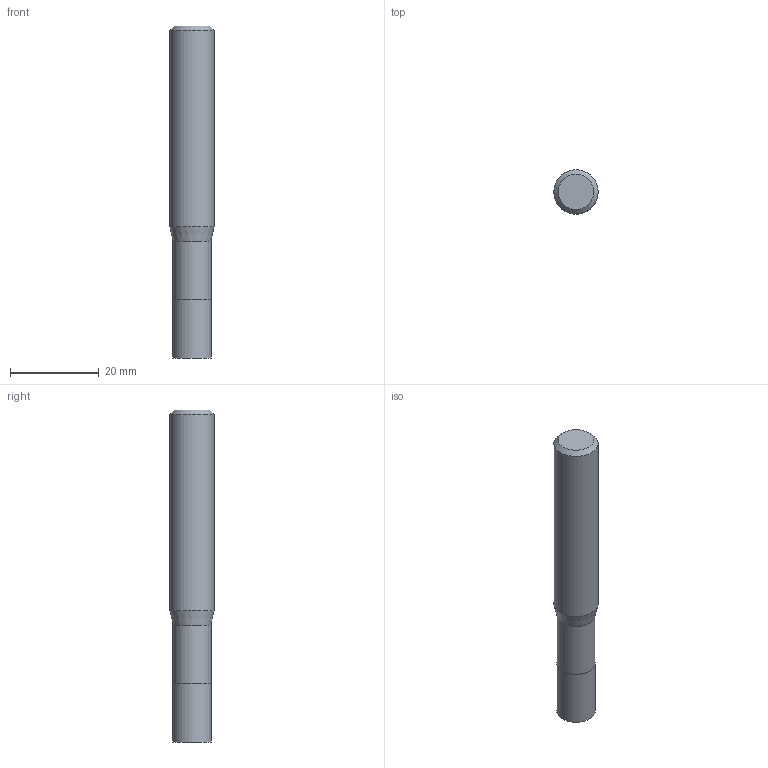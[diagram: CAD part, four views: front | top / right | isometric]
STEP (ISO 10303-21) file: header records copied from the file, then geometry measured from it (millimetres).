
FILE_DESCRIPTION((''),'2;1');
FILE_NAME('C:\Users\nsx150\AppData\Local\Temp\Mastercam 2021\EUJSUNXURU\TEMP.step','2021-04-22T10:29:36',(''),(''),'STEP Write','Mastercam 2021 ... CNC Software, Inc.','');
FILE_SCHEMA(('AUTOMOTIVE_DESIGN'));
Length unit declared in the file: millimetre
Products named in the file (1): None
Bounding box: 10 x 10 x 75 mm (x, y, z)
Volume: 5337.5 mm3; surface area: 2481.8 mm2
Topology: 2 solids, 2 shells, 9 faces, 12 edges, 7 vertices
Faces by surface type: plane 4, cylinder 3, cone 2
Full cylindrical faces by diameter (mm): 8.6 x1, 8.8 x1, 10 x1
Entity records: 211 total; most frequent: DIRECTION 36, CARTESIAN_POINT 25, AXIS2_PLACEMENT_3D 18, ORIENTED_EDGE 14, EDGE_LOOP 14, STYLED_ITEM 12, ADVANCED_FACE 9, FACE_BOUND 8
